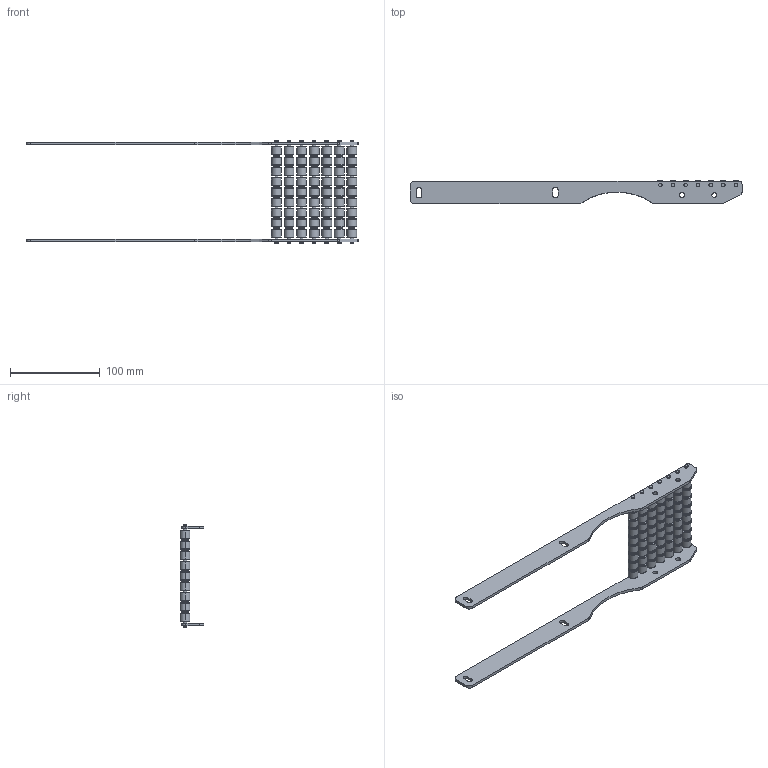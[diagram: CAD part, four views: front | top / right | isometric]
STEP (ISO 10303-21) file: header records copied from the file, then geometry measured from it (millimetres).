
FILE_DESCRIPTION (( 'STEP AP214' ), '1' );
FILE_NAME ('FCTB 105.step', '2017-04-07T11:06:39', ( '' ), ( '' ), 'SwSTEP 2.0', 'SolidWorks 2016', '' );
FILE_SCHEMA (( 'AUTOMOTIVE_DESIGN' ));
Length unit declared in the file: millimetre
Products named in the file (1): FCTB 105
Bounding box: 370 x 26.5 x 114.6 mm (x, y, z)
Volume: 107179 mm3; surface area: 70081 mm2
Topology: 1 solids, 1 shells, 1414 faces, 2886 edges, 1756 vertices
Faces by surface type: cylinder 606, torus 504, plane 304
Entity records: 37908 total; most frequent: DIRECTION 7936, CARTESIAN_POINT 6057, ORIENTED_EDGE 5772, AXIS2_PLACEMENT_3D 3635, EDGE_CURVE 2886, CIRCLE 2220, VERTEX_POINT 1756, EDGE_LOOP 1724
